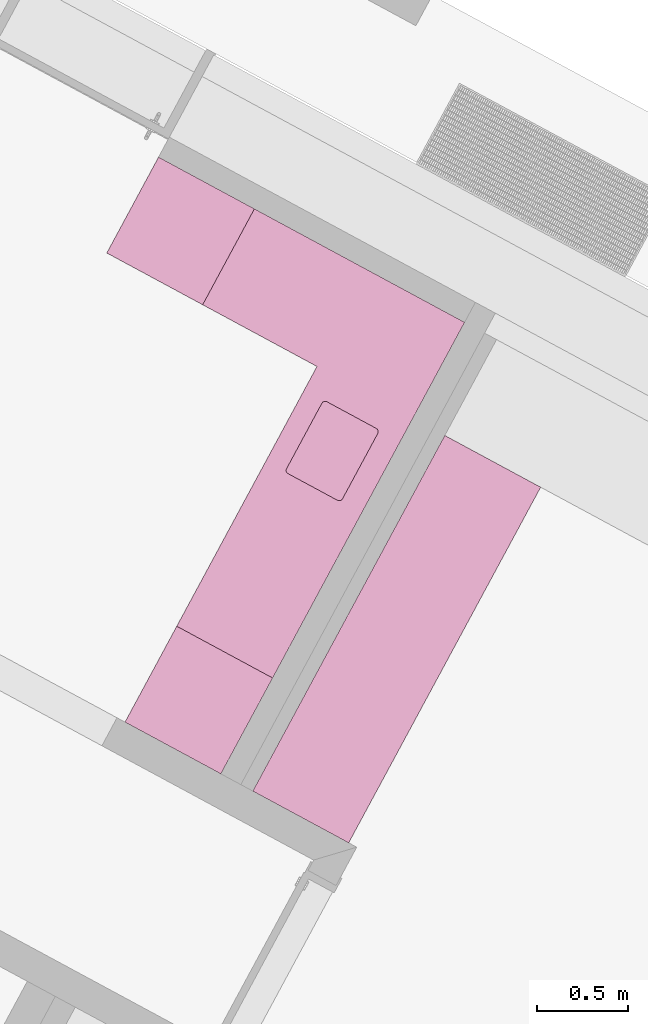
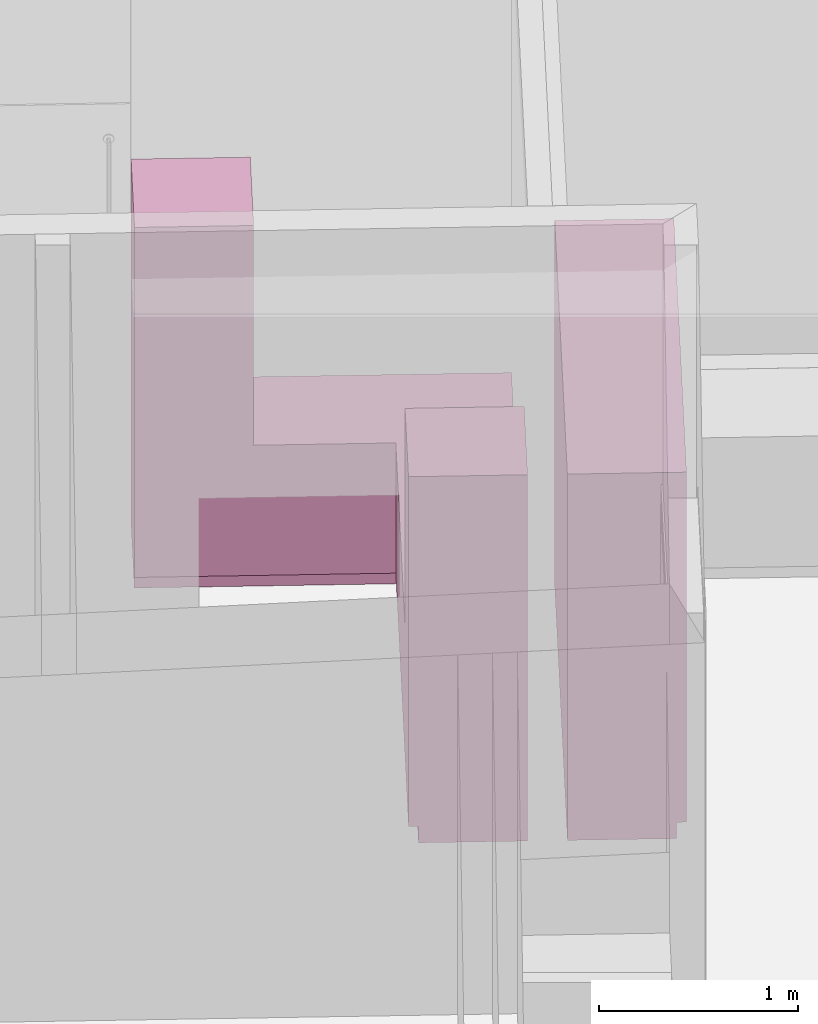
# One storey, part 35 of 36: 2 furnishings.
"""IFC2X3 building model written with IfcOpenShell, lengths in metres."""

from ifc_helpers import new_model, entity, si_unit, converted_unit, derived_unit, money_unit, direction, frame, origin_with_axes, place, context, subcontext, project, spatial, open_shell, faceted_brep, surface_model, type_object, element, save


model = new_model("IFC2X3")

# Units and contexts
model_context = context("Model", 3, precision=1e-05, world=origin_with_axes(), true_north=direction((0.0, 1.0)))
body_context = subcontext(model_context, "Body", "Model", "MODEL_VIEW")
ifc_project = project(units=[si_unit("LENGTHUNIT", "METRE"), si_unit("AREAUNIT", "SQUARE_METRE"), si_unit("VOLUMEUNIT", "CUBIC_METRE"), converted_unit("PLANEANGLEUNIT", "DEGREE", entity("IfcPlaneAngleMeasure", 0.0174532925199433), si_unit("PLANEANGLEUNIT", "RADIAN"), dimensions=[0, 0, 0, 0, 0, 0, 0]), money_unit("EUR"), converted_unit("TIMEUNIT", "Year", entity("IfcTimeMeasure", 31556926.0), si_unit("TIMEUNIT", "SECOND"), dimensions=[0, 0, 1, 0, 0, 0, 0]), si_unit("MASSUNIT", "GRAM", prefix="KILO"), si_unit("THERMODYNAMICTEMPERATUREUNIT", "DEGREE_CELSIUS"), si_unit("LUMINOUSINTENSITYUNIT", "LUMEN"), si_unit("ENERGYUNIT", "JOULE", prefix="MEGA"), derived_unit("THERMALCONDUCTANCEUNIT", [(si_unit("POWERUNIT", "WATT"), 1), (si_unit("LENGTHUNIT", "METRE"), -1), (si_unit("THERMODYNAMICTEMPERATUREUNIT", "KELVIN"), -1)]), derived_unit("SPECIFICHEATCAPACITYUNIT", [(si_unit("ENERGYUNIT", "JOULE"), 1), (si_unit("MASSUNIT", "GRAM", prefix="KILO"), -1), (si_unit("THERMODYNAMICTEMPERATUREUNIT", "KELVIN"), -1)]), derived_unit("MASSDENSITYUNIT", [(si_unit("MASSUNIT", "GRAM", prefix="KILO"), 1), (si_unit("VOLUMEUNIT", "CUBIC_METRE"), -1)])], contexts=[model_context])

# Site, building, storey
site_placement = place(None, frame((-3.949935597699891, 1.740105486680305, 0.0), z_axis=(0.0, 0.0, 1.0), x_axis=(0.8799804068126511, -0.475009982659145, 0.0)))
site = spatial("IfcSite", under=ifc_project, at=site_placement, Name="Gelände", CompositionType="ELEMENT")
building_placement = place(site_placement, origin_with_axes())
building = spatial("IfcBuilding", under=site, at=building_placement, Name="Gebäude", CompositionType="ELEMENT")
storey_placement = place(building_placement, origin_with_axes())
storey = spatial("IfcBuildingStorey", under=building, at=storey_placement, Name="Erdgeschoss", CompositionType="ELEMENT", Elevation=0.0)

# Furnishings
furniture_type = type_object("IfcFurnitureType", Name="Konzeptküche 26", AssemblyPlace="NOTDEFINED")
furnishing_1_placement = place(storey_placement, frame((14.01273435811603, 19.24773417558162, 0.0), z_axis=(0.0, 0.0, 1.0), x_axis=(0.0, -1.0, 0.0)))
element("IfcFurnishingElement", 1, at=furnishing_1_placement, inside=storey, type_object=furniture_type, Name="Küche-001", ObjectType="FURNITURE", context=body_context, shape_type="Brep", body=[
    faceted_brep([(2.598025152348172, 0.5499982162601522, 0.0), (1.998025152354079, 0.5499955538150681, 0.0), (1.998025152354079, 0.5499955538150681, 0.1), (2.598025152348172, 0.5499982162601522, 0.1), (2.598027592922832, -1.783734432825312e-06, 0.0), (1.998027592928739, -4.446179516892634e-06, 0.0), (1.998027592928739, -4.446179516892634e-06, 0.1), (2.598027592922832, -1.783734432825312e-06, 0.1)], [[[0, 1, 2, 3]], [[0, 4, 5, 1]], [[1, 5, 6, 2]], [[3, 2, 6, 7]], [[4, 0, 3, 7]], [[5, 4, 7, 6]]]),
    faceted_brep([(2.598024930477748, 0.59999821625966, 0.1), (1.998024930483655, 0.5999955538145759, 0.1), (1.998024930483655, 0.5999955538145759, 2.25), (2.598024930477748, 0.59999821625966, 2.25), (2.598027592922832, -1.783734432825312e-06, 0.1), (1.998027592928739, -4.446179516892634e-06, 0.1), (1.998027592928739, -4.446179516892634e-06, 2.25), (2.598027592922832, -1.783734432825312e-06, 2.25)], [[[0, 1, 2, 3]], [[0, 4, 5, 1]], [[1, 5, 6, 2]], [[3, 2, 6, 7]], [[4, 0, 3, 7]], [[5, 4, 7, 6]]]),
    faceted_brep([(3.198025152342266, 0.5500008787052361, 0.0), (2.598025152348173, 0.549998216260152, 0.0), (2.598025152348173, 0.549998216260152, 0.1), (3.198025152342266, 0.5500008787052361, 0.1), (3.198027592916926, 8.787106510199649e-07, 0.0), (2.598027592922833, -1.783734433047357e-06, 0.0), (2.598027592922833, -1.783734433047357e-06, 0.1), (3.198027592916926, 8.787106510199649e-07, 0.1)], [[[0, 1, 2, 3]], [[0, 4, 5, 1]], [[1, 5, 6, 2]], [[3, 2, 6, 7]], [[4, 0, 3, 7]], [[5, 4, 7, 6]]]),
    faceted_brep([(3.198024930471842, 0.6000008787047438, 0.1), (2.598024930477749, 0.5999982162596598, 0.1), (2.598024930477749, 0.5999982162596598, 2.25), (3.198024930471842, 0.6000008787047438, 2.25), (3.198027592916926, 8.787106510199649e-07, 0.1), (2.598027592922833, -1.783734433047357e-06, 0.1), (2.598027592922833, -1.783734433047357e-06, 2.25), (3.198027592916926, 8.787106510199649e-07, 2.25)], [[[0, 1, 2, 3]], [[0, 4, 5, 1]], [[1, 5, 6, 2]], [[3, 2, 6, 7]], [[4, 0, 3, 7]], [[5, 4, 7, 6]]]),
    faceted_brep([(1.398025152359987, 0.5499928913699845, 0.0), (0.9724428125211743, 0.5499910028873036, 0.0), (0.9724428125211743, 0.5499910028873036, 0.1), (1.398025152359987, 0.5499928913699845, 0.1), (1.398027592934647, -7.108624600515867e-06, 0.0), (0.9724452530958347, -8.997107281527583e-06, 0.0), (0.9724452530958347, -8.997107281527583e-06, 0.1), (1.398027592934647, -7.108624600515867e-06, 0.1)], [[[0, 1, 2, 3]], [[0, 4, 5, 1]], [[1, 5, 6, 2]], [[3, 2, 6, 7]], [[4, 0, 3, 7]], [[5, 4, 7, 6]]]),
    faceted_brep([(1.398024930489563, 0.5999928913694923, 0.1), (0.9724425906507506, 0.5999910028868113, 0.1), (0.9724425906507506, 0.5999910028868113, 2.25), (1.398024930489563, 0.5999928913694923, 2.25), (1.398027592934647, -7.108624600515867e-06, 0.1), (0.9724452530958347, -8.997107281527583e-06, 0.1), (0.9724452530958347, -8.997107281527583e-06, 2.25), (1.398027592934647, -7.108624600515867e-06, 2.25)], [[[0, 1, 2, 3]], [[0, 4, 5, 1]], [[1, 5, 6, 2]], [[3, 2, 6, 7]], [[4, 0, 3, 7]], [[5, 4, 7, 6]]]),
    faceted_brep([(1.998025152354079, 0.5499955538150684, 0.0), (1.398025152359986, 0.5499928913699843, 0.0), (1.398025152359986, 0.5499928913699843, 0.1), (1.998025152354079, 0.5499955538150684, 0.1), (1.998027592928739, -4.44617951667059e-06, 0.0), (1.398027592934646, -7.108624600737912e-06, 0.0), (1.398027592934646, -7.108624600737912e-06, 0.1), (1.998027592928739, -4.44617951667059e-06, 0.1)], [[[0, 1, 2, 3]], [[0, 4, 5, 1]], [[1, 5, 6, 2]], [[3, 2, 6, 7]], [[4, 0, 3, 7]], [[5, 4, 7, 6]]]),
    faceted_brep([(1.998024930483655, 0.5999955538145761, 0.1), (1.398024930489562, 0.5999928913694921, 0.1), (1.398024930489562, 0.5999928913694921, 2.25), (1.998024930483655, 0.5999955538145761, 2.25), (1.998027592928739, -4.44617951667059e-06, 0.1), (1.398027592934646, -7.108624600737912e-06, 0.1), (1.398027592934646, -7.108624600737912e-06, 2.25), (1.998027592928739, -4.44617951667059e-06, 2.25)], [[[0, 1, 2, 3]], [[0, 4, 5, 1]], [[1, 5, 6, 2]], [[3, 2, 6, 7]], [[4, 0, 3, 7]], [[5, 4, 7, 6]]]),
])
furnishing_2_placement = place(storey_placement, frame((10.6147076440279, 18.87526417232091, 0.0), z_axis=(0.0, 0.0, 1.0), x_axis=(-0.9999999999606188, -8.874816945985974e-06, 0.0)))
element("IfcFurnishingElement", 2, at=furnishing_2_placement, inside=storey, type_object=furniture_type, Name="Küche-001", ObjectType="FURNITURE", context=body_context, shape_type="SurfaceModel", body=[
    faceted_brep([(-1.882684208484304, 0.5500006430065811, 0.0), (-2.648027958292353, 0.5500007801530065, 0.0), (-2.648027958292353, 0.5500007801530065, 0.1), (-1.882684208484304, 0.5500006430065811, 0.1), (-1.882684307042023, 6.430065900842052e-07, 0.0), (-3.198027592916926, 8.787106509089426e-07, 0.0), (-3.198027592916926, 8.787106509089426e-07, 0.1), (-1.882684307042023, 6.430065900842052e-07, 0.1)], [[[0, 1, 2, 3]], [[4, 5, 1, 0]], [[1, 5, 6, 2]], [[3, 2, 6, 7]], [[7, 4, 0, 3]], [[7, 6, 5, 4]]]),
    faceted_brep([(-3.198029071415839, 2.225586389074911, 0.0), (-3.198027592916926, 8.787106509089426e-07, 0.0), (-3.198027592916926, 8.787106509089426e-07, 0.1), (-3.198029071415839, 2.225586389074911, 0.1), (-2.648029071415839, 2.225586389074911, 0.0), (-2.648027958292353, 0.5500007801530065, 0.0), (-2.648027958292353, 0.5500007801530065, 0.1), (-2.648029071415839, 2.225586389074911, 0.1)], [[[0, 1, 2, 3]], [[4, 5, 1, 0]], [[1, 5, 6, 2]], [[3, 2, 6, 7]], [[7, 4, 0, 3]], [[7, 6, 5, 4]]]),
    faceted_brep([(-1.882684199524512, 0.6000006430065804, 0.86), (-2.598027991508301, 0.6000007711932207, 0.86), (-2.598027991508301, 0.6000007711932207, 0.9), (-1.882684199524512, 0.6000006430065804, 0.9), (-1.882684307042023, 6.430065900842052e-07, 0.86), (-3.198027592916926, 8.787106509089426e-07, 0.86), (-3.198027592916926, 8.787106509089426e-07, 0.9), (-1.882684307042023, 6.430065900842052e-07, 0.9)], [[[0, 1, 2, 3]], [[4, 5, 1, 0]], [[1, 5, 6, 2]], [[3, 2, 6, 7]], [[7, 4, 0, 3]], [[7, 6, 5, 4]]]),
    faceted_brep([(-3.198029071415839, 2.225586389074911, 0.86), (-3.198027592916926, 8.787106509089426e-07, 0.86), (-3.198027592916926, 8.787106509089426e-07, 0.9), (-3.198029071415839, 2.225586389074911, 0.9), (-2.598029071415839, 2.225586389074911, 0.86), (-2.598027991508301, 0.6000007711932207, 0.86), (-3.143028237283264, 0.719966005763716, 0.86), (-2.693028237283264, 0.719966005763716, 0.86), (-2.693028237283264, 1.219966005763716, 0.86), (-3.143028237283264, 1.219966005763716, 0.86), (-2.598027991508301, 0.6000007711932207, 0.9), (-2.598029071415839, 2.225586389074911, 0.9), (-2.693028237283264, 1.219966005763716, 0.9), (-2.693028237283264, 0.719966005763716, 0.9), (-3.143028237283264, 0.719966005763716, 0.9), (-3.143028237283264, 1.219966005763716, 0.9)], [[[0, 1, 2, 3]], [[4, 5, 1, 0], [6, 7, 8, 9]], [[2, 1, 5, 10]], [[3, 2, 10, 11], [12, 13, 14, 15]], [[11, 4, 0, 3]], [[11, 10, 5, 4]], [[14, 13, 7, 6]], [[13, 12, 8, 7]], [[12, 15, 9, 8]], [[15, 14, 6, 9]]]),
    faceted_brep([(-1.882684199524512, 0.6000006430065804, 0.09999999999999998), (-2.598027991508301, 0.6000007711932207, 0.09999999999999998), (-2.598027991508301, 0.6000007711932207, 0.86), (-1.882684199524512, 0.6000006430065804, 0.86), (-1.882684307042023, 6.430065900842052e-07, 0.09999999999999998), (-3.198027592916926, 8.787106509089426e-07, 0.09999999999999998), (-3.198027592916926, 8.787106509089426e-07, 0.86), (-1.882684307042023, 6.430065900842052e-07, 0.86)], [[[0, 1, 2, 3]], [[4, 5, 1, 0]], [[1, 5, 6, 2]], [[3, 2, 6, 7]], [[7, 4, 0, 3]], [[7, 6, 5, 4]]]),
    faceted_brep([(-3.198029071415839, 2.225586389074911, 0.09999999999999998), (-3.198027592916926, 8.787106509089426e-07, 0.09999999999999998), (-3.198027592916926, 8.787106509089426e-07, 0.86), (-3.198029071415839, 2.225586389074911, 0.86), (-2.598029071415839, 2.225586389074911, 0.09999999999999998), (-2.598027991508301, 0.6000007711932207, 0.09999999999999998), (-3.143028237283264, 0.719966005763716, 0.09999999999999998), (-2.693028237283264, 0.719966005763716, 0.09999999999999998), (-2.693028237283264, 1.219966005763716, 0.09999999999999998), (-3.143028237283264, 1.219966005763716, 0.09999999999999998), (-2.598027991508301, 0.6000007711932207, 0.86), (-2.598029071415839, 2.225586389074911, 0.86), (-2.693028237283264, 1.219966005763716, 0.86), (-2.693028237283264, 0.719966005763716, 0.86), (-3.143028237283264, 0.719966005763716, 0.86), (-3.143028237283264, 1.219966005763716, 0.86)], [[[0, 1, 2, 3]], [[4, 5, 1, 0], [6, 7, 8, 9]], [[2, 1, 5, 10]], [[3, 2, 10, 11], [12, 13, 14, 15]], [[11, 4, 0, 3]], [[11, 10, 5, 4]], [[14, 13, 7, 6]], [[13, 12, 8, 7]], [[12, 15, 9, 8]], [[15, 14, 6, 9]]]),
    surface_model("IfcShellBasedSurfaceModel", [(-2.718028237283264, 1.174966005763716, 0.705), (-2.718028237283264, 1.174966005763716, 0.8999999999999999), (-2.718028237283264, 0.7649660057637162, 0.8999999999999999), (-2.718028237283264, 0.7649660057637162, 0.705), (-2.719550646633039, 1.182619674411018, 0.705), (-2.719550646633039, 1.182619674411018, 0.8999999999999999), (-2.719550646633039, 0.7573123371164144, 0.8999999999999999), (-2.719550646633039, 0.7573123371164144, 0.705), (-2.723886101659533, 0.7508238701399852, 0.705), (-2.730374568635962, 0.7464884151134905, 0.705), (-2.738028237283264, 0.7449660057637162, 0.705), (-3.048028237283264, 0.7449660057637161, 0.705), (-3.055681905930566, 0.7464884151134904, 0.705), (-3.062170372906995, 0.7508238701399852, 0.705), (-3.06650582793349, 0.7573123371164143, 0.705), (-3.068028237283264, 0.7649660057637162, 0.705), (-3.068028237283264, 1.174966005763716, 0.705), (-3.06650582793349, 1.182619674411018, 0.705), (-3.062170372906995, 1.189108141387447, 0.705), (-3.055681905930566, 1.193443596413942, 0.705), (-3.048028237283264, 1.194966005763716, 0.705), (-2.738028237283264, 1.194966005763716, 0.705), (-2.730374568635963, 1.193443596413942, 0.705), (-2.723886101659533, 1.189108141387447, 0.705), (-2.723886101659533, 1.189108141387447, 0.8999999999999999), (-2.723886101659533, 0.7508238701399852, 0.8999999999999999), (-2.730374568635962, 0.7464884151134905, 0.8999999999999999), (-2.738028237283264, 0.7449660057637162, 0.8999999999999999), (-3.048028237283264, 0.7449660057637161, 0.8999999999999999), (-3.055681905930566, 0.7464884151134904, 0.8999999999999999), (-3.062170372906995, 0.7508238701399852, 0.8999999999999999), (-3.06650582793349, 0.7573123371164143, 0.8999999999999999), (-3.068028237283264, 0.7649660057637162, 0.8999999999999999), (-3.068028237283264, 1.174966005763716, 0.8999999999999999), (-3.06650582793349, 1.182619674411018, 0.8999999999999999), (-3.062170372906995, 1.189108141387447, 0.8999999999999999), (-3.055681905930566, 1.193443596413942, 0.8999999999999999), (-3.048028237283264, 1.194966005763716, 0.8999999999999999), (-2.738028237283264, 1.194966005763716, 0.8999999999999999), (-2.730374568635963, 1.193443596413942, 0.8999999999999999)], [open_shell([[[0, 1, 2, 3]], [[4, 5, 1, 0]], [[3, 2, 6, 7]], [[0, 3, 7, 8, 9, 10, 11, 12, 13, 14, 15, 16, 17, 18, 19, 20, 21, 22, 23, 4]], [[23, 24, 5, 4]], [[7, 6, 25, 8]], [[8, 25, 26, 9]], [[9, 26, 27, 10]], [[10, 27, 28, 11]], [[11, 28, 29, 12]], [[12, 29, 30, 13]], [[13, 30, 31, 14]], [[14, 31, 32, 15]], [[15, 32, 33, 16]], [[16, 33, 34, 17]], [[17, 34, 35, 18]], [[18, 35, 36, 19]], [[19, 36, 37, 20]], [[20, 37, 38, 21]], [[21, 38, 39, 22]], [[22, 39, 24, 23]]])]),
    faceted_brep([(-2.668028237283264, 1.224966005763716, 0.8999999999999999), (-2.668028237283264, 1.224966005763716, 0.9049999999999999), (-2.668028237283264, 0.7149660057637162, 0.9049999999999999), (-2.668028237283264, 0.7149660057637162, 0.8999999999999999), (-2.669550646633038, 1.232619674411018, 0.8999999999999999), (-2.669550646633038, 1.232619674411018, 0.9049999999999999), (-2.673886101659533, 1.239108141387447, 0.9049999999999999), (-2.680374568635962, 1.243443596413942, 0.9049999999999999), (-2.688028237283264, 1.244966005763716, 0.9049999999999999), (-3.148028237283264, 1.244966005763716, 0.9049999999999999), (-3.155681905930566, 1.243443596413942, 0.9049999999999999), (-3.162170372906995, 1.239108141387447, 0.9049999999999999), (-3.16650582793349, 1.232619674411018, 0.9049999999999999), (-3.168028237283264, 1.224966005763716, 0.9049999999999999), (-3.168028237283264, 0.714966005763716, 0.9049999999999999), (-3.16650582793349, 0.7073123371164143, 0.9049999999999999), (-3.162170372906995, 0.700823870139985, 0.9049999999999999), (-3.155681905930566, 0.6964884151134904, 0.9049999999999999), (-3.148028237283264, 0.694966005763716, 0.9049999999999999), (-2.688028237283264, 0.6949660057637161, 0.9049999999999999), (-2.680374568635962, 0.6964884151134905, 0.9049999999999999), (-2.673886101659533, 0.7008238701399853, 0.9049999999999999), (-2.669550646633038, 0.7073123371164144, 0.9049999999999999), (-2.718028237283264, 1.174966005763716, 0.9049999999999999), (-2.718028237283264, 0.7649660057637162, 0.9049999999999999), (-2.719550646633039, 0.7573123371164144, 0.9049999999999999), (-2.723886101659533, 0.7508238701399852, 0.9049999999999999), (-2.730374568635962, 0.7464884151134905, 0.9049999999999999), (-2.738028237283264, 0.7449660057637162, 0.9049999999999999), (-3.048028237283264, 0.7449660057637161, 0.9049999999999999), (-3.055681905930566, 0.7464884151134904, 0.9049999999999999), (-3.062170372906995, 0.7508238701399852, 0.9049999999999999), (-3.06650582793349, 0.7573123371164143, 0.9049999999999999), (-3.068028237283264, 0.7649660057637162, 0.9049999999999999), (-3.068028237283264, 1.174966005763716, 0.9049999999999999), (-3.06650582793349, 1.182619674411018, 0.9049999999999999), (-3.062170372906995, 1.189108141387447, 0.9049999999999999), (-3.055681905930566, 1.193443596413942, 0.9049999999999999), (-3.048028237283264, 1.194966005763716, 0.9049999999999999), (-2.738028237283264, 1.194966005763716, 0.9049999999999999), (-2.730374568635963, 1.193443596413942, 0.9049999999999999), (-2.723886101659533, 1.189108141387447, 0.9049999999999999), (-2.719550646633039, 1.182619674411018, 0.9049999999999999), (-2.669550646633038, 0.7073123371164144, 0.8999999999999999), (-2.673886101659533, 0.7008238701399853, 0.8999999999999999), (-2.680374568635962, 0.6964884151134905, 0.8999999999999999), (-2.688028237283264, 0.6949660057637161, 0.8999999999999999), (-3.148028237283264, 0.694966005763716, 0.8999999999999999), (-3.155681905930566, 0.6964884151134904, 0.8999999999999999), (-3.162170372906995, 0.700823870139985, 0.8999999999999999), (-3.16650582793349, 0.7073123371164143, 0.8999999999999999), (-3.168028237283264, 0.714966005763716, 0.8999999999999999), (-3.168028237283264, 1.224966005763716, 0.8999999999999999), (-3.16650582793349, 1.232619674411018, 0.8999999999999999), (-3.162170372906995, 1.239108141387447, 0.8999999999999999), (-3.155681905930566, 1.243443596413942, 0.8999999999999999), (-3.148028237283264, 1.244966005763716, 0.8999999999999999), (-2.688028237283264, 1.244966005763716, 0.8999999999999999), (-2.680374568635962, 1.243443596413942, 0.8999999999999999), (-2.673886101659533, 1.239108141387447, 0.8999999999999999), (-2.718028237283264, 1.174966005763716, 0.8999999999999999), (-2.719550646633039, 1.182619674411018, 0.8999999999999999), (-2.723886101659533, 1.189108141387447, 0.8999999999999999), (-2.730374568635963, 1.193443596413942, 0.8999999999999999), (-2.738028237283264, 1.194966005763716, 0.8999999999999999), (-3.048028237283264, 1.194966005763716, 0.8999999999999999), (-3.055681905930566, 1.193443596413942, 0.8999999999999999), (-3.062170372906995, 1.189108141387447, 0.8999999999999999), (-3.06650582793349, 1.182619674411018, 0.8999999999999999), (-3.068028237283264, 1.174966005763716, 0.8999999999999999), (-3.068028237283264, 0.7649660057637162, 0.8999999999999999), (-3.06650582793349, 0.7573123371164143, 0.8999999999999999), (-3.062170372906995, 0.7508238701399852, 0.8999999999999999), (-3.055681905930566, 0.7464884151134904, 0.8999999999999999), (-3.048028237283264, 0.7449660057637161, 0.8999999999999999), (-2.738028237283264, 0.7449660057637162, 0.8999999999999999), (-2.730374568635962, 0.7464884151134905, 0.8999999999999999), (-2.723886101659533, 0.7508238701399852, 0.8999999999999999), (-2.719550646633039, 0.7573123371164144, 0.8999999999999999), (-2.718028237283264, 0.7649660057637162, 0.8999999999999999)], [[[0, 1, 2, 3]], [[4, 5, 1, 0]], [[1, 5, 6, 7, 8, 9, 10, 11, 12, 13, 14, 15, 16, 17, 18, 19, 20, 21, 22, 2], [23, 24, 25, 26, 27, 28, 29, 30, 31, 32, 33, 34, 35, 36, 37, 38, 39, 40, 41, 42]], [[3, 2, 22, 43]], [[0, 3, 43, 44, 45, 46, 47, 48, 49, 50, 51, 52, 53, 54, 55, 56, 57, 58, 59, 4], [60, 61, 62, 63, 64, 65, 66, 67, 68, 69, 70, 71, 72, 73, 74, 75, 76, 77, 78, 79]], [[59, 6, 5, 4]], [[58, 7, 6, 59]], [[57, 8, 7, 58]], [[56, 9, 8, 57]], [[55, 10, 9, 56]], [[54, 11, 10, 55]], [[53, 12, 11, 54]], [[52, 13, 12, 53]], [[51, 14, 13, 52]], [[50, 15, 14, 51]], [[49, 16, 15, 50]], [[48, 17, 16, 49]], [[47, 18, 17, 48]], [[46, 19, 18, 47]], [[45, 20, 19, 46]], [[44, 21, 20, 45]], [[43, 22, 21, 44]], [[79, 24, 23, 60]], [[78, 25, 24, 79]], [[77, 26, 25, 78]], [[76, 27, 26, 77]], [[75, 28, 27, 76]], [[74, 29, 28, 75]], [[73, 30, 29, 74]], [[72, 31, 30, 73]], [[71, 32, 31, 72]], [[70, 33, 32, 71]], [[69, 34, 33, 70]], [[68, 35, 34, 69]], [[67, 36, 35, 68]], [[66, 37, 36, 67]], [[65, 38, 37, 66]], [[64, 39, 38, 65]], [[63, 40, 39, 64]], [[62, 41, 40, 63]], [[61, 42, 41, 62]], [[60, 23, 42, 61]]]),
    faceted_brep([(-2.648029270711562, 2.825586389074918, 0.0), (-2.648029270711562, 2.825586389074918, 0.1), (-2.648029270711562, 2.225586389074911, 0.1), (-2.648029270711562, 2.225586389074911, 0.0), (-3.198029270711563, 2.825586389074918, 0.0), (-3.198029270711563, 2.825586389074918, 0.1), (-3.198029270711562, 2.225586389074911, 0.1), (-3.198029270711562, 2.225586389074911, 0.0)], [[[0, 1, 2, 3]], [[4, 5, 1, 0]], [[1, 5, 6, 2]], [[3, 2, 6, 7]], [[0, 3, 7, 4]], [[7, 6, 5, 4]]]),
    faceted_brep([(-2.598029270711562, 2.825586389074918, 0.1), (-2.598029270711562, 2.825586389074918, 2.25), (-2.598029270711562, 2.225586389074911, 2.25), (-2.598029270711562, 2.225586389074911, 0.1), (-3.198029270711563, 2.825586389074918, 0.1), (-3.198029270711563, 2.825586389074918, 2.25), (-3.198029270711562, 2.225586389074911, 2.25), (-3.198029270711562, 2.225586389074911, 0.1)], [[[0, 1, 2, 3]], [[4, 5, 1, 0]], [[1, 5, 6, 2]], [[3, 2, 6, 7]], [[0, 3, 7, 4]], [[7, 6, 5, 4]]]),
    faceted_brep([(-1.882684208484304, 0.5500006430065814, 0.0), (-1.882684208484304, 0.5500006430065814, 0.1), (-1.282684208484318, 0.5500005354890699, 0.1), (-1.282684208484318, 0.5500005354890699, 0.0), (-1.882684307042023, 6.430065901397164e-07, 0.0), (-1.882684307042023, 6.430065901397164e-07, 0.1), (-1.282684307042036, 5.354890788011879e-07, 0.1), (-1.282684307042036, 5.354890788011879e-07, 0.0)], [[[0, 1, 2, 3]], [[4, 5, 1, 0]], [[1, 5, 6, 2]], [[3, 2, 6, 7]], [[0, 3, 7, 4]], [[7, 6, 5, 4]]]),
    faceted_brep([(-1.882684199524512, 0.6000006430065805, 0.1), (-1.882684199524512, 0.6000006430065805, 2.25), (-1.282684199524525, 0.6000005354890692, 2.25), (-1.282684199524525, 0.6000005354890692, 0.1), (-1.882684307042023, 6.430065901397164e-07, 0.1), (-1.882684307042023, 6.430065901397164e-07, 2.25), (-1.282684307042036, 5.354890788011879e-07, 2.25), (-1.282684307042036, 5.354890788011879e-07, 0.1)], [[[0, 1, 2, 3]], [[4, 5, 1, 0]], [[1, 5, 6, 2]], [[3, 2, 6, 7]], [[0, 3, 7, 4]], [[7, 6, 5, 4]]]),
])

save(model, "model.ifc")
